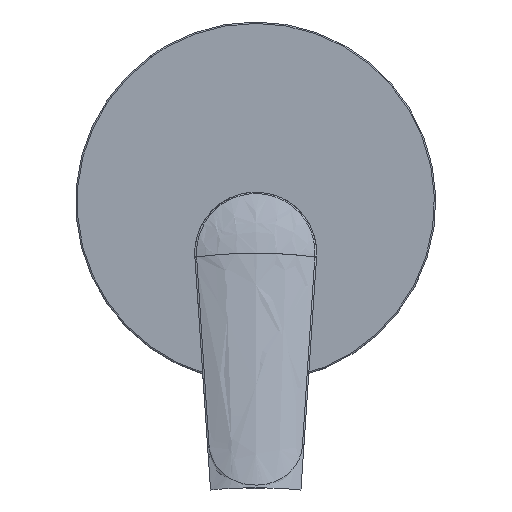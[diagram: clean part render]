
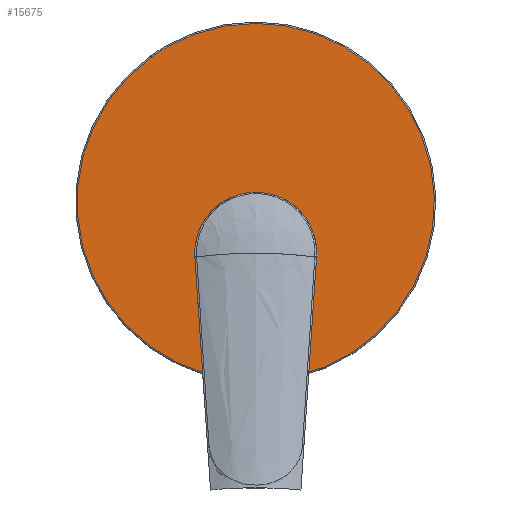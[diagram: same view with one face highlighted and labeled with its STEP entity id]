
A CAD part, top view. The second image highlights one B-rep face of the part: STEP entity #15675.
In plain terms, the highlighted planar face has unit normal (0, 0, 1) as drawn and (0, 1, 0) by its records, which use the part's own axes.
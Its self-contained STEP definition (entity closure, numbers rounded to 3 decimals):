
#10831=CARTESIAN_POINT('',(0.,12.5,0.));
#10832=DIRECTION('',(0.,1.,0.));
#10833=DIRECTION('',(-0.585,0.,-0.811));
#10834=AXIS2_PLACEMENT_3D('',#10831,#10832,#10833);
#10836=CARTESIAN_POINT('',(0.,12.5,0.));
#10837=DIRECTION('',(0.,1.,0.));
#10838=DIRECTION('',(-0.494,0.,-0.869));
#10839=AXIS2_PLACEMENT_3D('',#10836,#10837,#10838);
#10841=CARTESIAN_POINT('',(0.,12.5,18.5));
#10842=DIRECTION('',(0.,-1.,0.));
#10843=DIRECTION('',(-1.,0.,0.));
#10844=AXIS2_PLACEMENT_3D('',#10841,#10842,#10843);
#10846=CARTESIAN_POINT('',(0.,12.5,18.5));
#10847=DIRECTION('',(0.,-1.,0.));
#10848=DIRECTION('',(1.,0.,0.));
#10849=AXIS2_PLACEMENT_3D('',#10846,#10847,#10848);
#15154=CARTESIAN_POINT('',(-20.95,12.5,18.5));
#15155=CARTESIAN_POINT('',(20.95,12.5,18.5));
#15156=VERTEX_POINT('',#15154);
#15157=VERTEX_POINT('',#15155);
#15162=CARTESIAN_POINT('',(-37.708,12.5,-52.33));
#15163=CARTESIAN_POINT('',(-31.889,12.5,-56.065));
#15164=VERTEX_POINT('',#15162);
#15165=VERTEX_POINT('',#15163);
#15659=CARTESIAN_POINT('',(0.,12.5,0.));
#15660=DIRECTION('',(0.,1.,0.));
#15661=DIRECTION('',(1.,0.,0.));
#15662=AXIS2_PLACEMENT_3D('',#15659,#15660,#15661);
#15663=PLANE('',#15662);
#15665=ORIENTED_EDGE('',*,*,#15664,.F.);
#15666=ORIENTED_EDGE('',*,*,#15649,.F.);
#15667=EDGE_LOOP('',(#15665,#15666));
#15668=FACE_OUTER_BOUND('',#15667,.F.);
#15670=ORIENTED_EDGE('',*,*,#15669,.F.);
#15672=ORIENTED_EDGE('',*,*,#15671,.F.);
#15673=EDGE_LOOP('',(#15670,#15672));
#15674=FACE_BOUND('',#15673,.F.);
#15675=ADVANCED_FACE('',(#15668,#15674),#15663,.T.);
#10835=CIRCLE('',#10834,64.5);
#10840=CIRCLE('',#10839,64.5);
#10845=CIRCLE('',#10844,20.95);
#10850=CIRCLE('',#10849,20.95);
#15649=EDGE_CURVE('',#15165,#15164,#10840,.T.);
#15664=EDGE_CURVE('',#15164,#15165,#10835,.T.);
#15669=EDGE_CURVE('',#15156,#15157,#10845,.T.);
#15671=EDGE_CURVE('',#15157,#15156,#10850,.T.);
